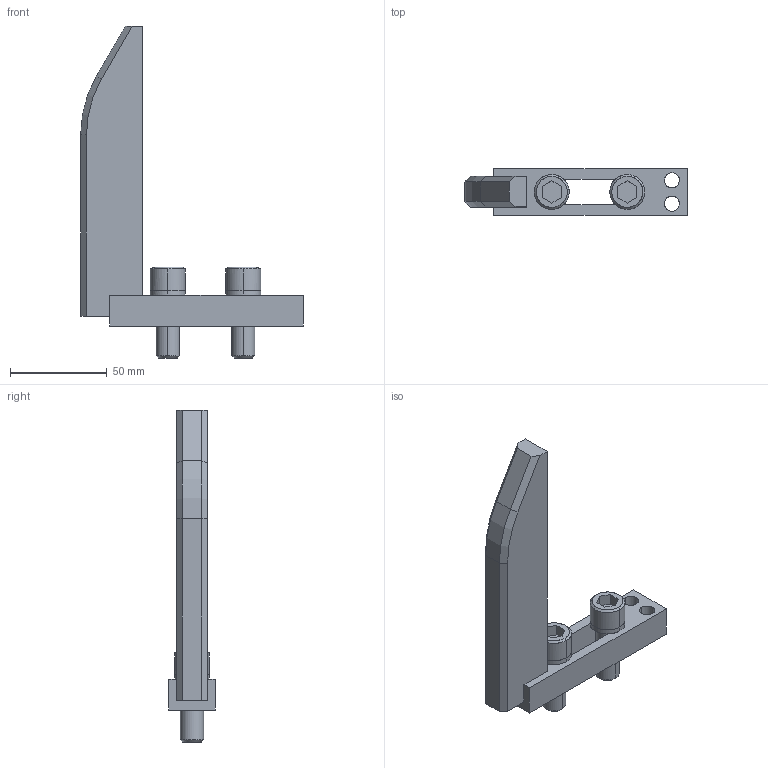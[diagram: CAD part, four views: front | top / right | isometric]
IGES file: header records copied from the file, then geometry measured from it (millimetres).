
Global section: file name: E:\UnigraphicsGraphicData\MISUMI_PRESS-PARTS\IGES\3d_ngnba-155-40-m12_01528_r00.igs; native system: NX V5.0; preprocessor: UGS NX IGES V5.0; author: MISUMI; date: 20110105.162047; units: millimetre
Bounding box: 115 x 24 x 171.5 mm (x, y, z)
Surface area: 30704.2 mm2 (no closed solid volume)
Topology: 0 solids, 0 shells, 100 faces, 629 edges, 629 vertices
Faces by surface type: bspline 100
